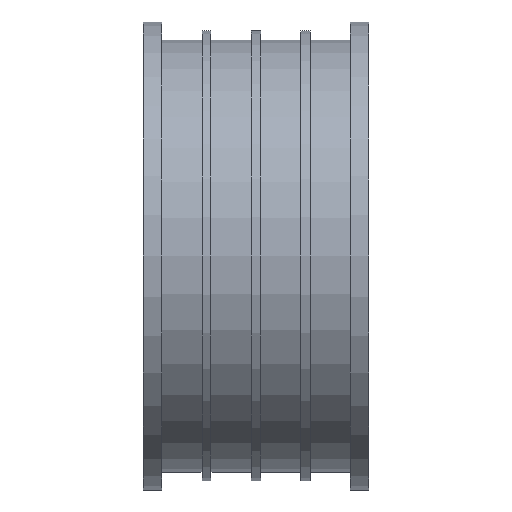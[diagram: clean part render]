
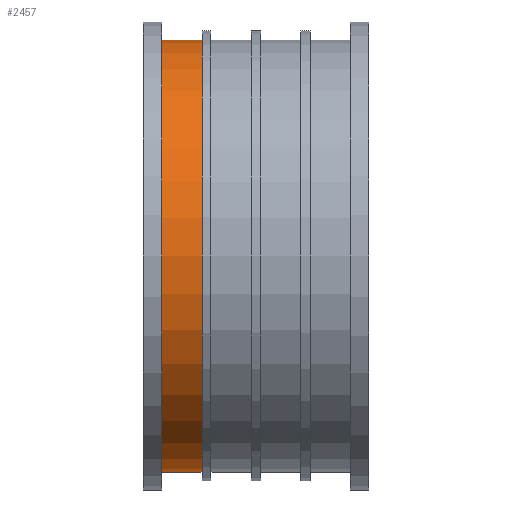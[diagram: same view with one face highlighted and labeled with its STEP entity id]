
A CAD part, front view. The second image highlights one B-rep face of the part: STEP entity #2457.
In plain terms, the highlighted cylindrical face has radius 24 mm (diameter 48 mm), a full revolution.
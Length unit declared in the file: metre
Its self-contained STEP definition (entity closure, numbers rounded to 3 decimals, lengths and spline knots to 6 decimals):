
#50=CYLINDRICAL_SURFACE('',#2698,0.024);
#240=CIRCLE('',#2697,0.024);
#241=CIRCLE('',#2699,0.024);
#807=ORIENTED_EDGE('',*,*,#1350,.F.);
#808=ORIENTED_EDGE('',*,*,#1351,.T.);
#1350=EDGE_CURVE('',#1618,#1618,#240,.T.);
#1351=EDGE_CURVE('',#1619,#1619,#241,.T.);
#1618=VERTEX_POINT('',#4630);
#1619=VERTEX_POINT('',#4633);
#2078=EDGE_LOOP('',(#807));
#2079=EDGE_LOOP('',(#808));
#2234=FACE_BOUND('',#2078,.T.);
#2235=FACE_BOUND('',#2079,.T.);
#2457=ADVANCED_FACE('',(#2234,#2235),#50,.T.);
#2697=AXIS2_PLACEMENT_3D('',#4629,#3267,#3268);
#2698=AXIS2_PLACEMENT_3D('',#4631,#3269,#3270);
#2699=AXIS2_PLACEMENT_3D('',#4632,#3271,#3272);
#3267=DIRECTION('',(-1.,0.,0.));
#3268=DIRECTION('',(0.,0.,1.));
#3269=DIRECTION('',(-1.,0.,0.));
#3270=DIRECTION('',(0.,0.,1.));
#3271=DIRECTION('',(-1.,0.,0.));
#3272=DIRECTION('',(0.,0.,1.));
#4629=CARTESIAN_POINT('',(-0.023,0.,0.));
#4630=CARTESIAN_POINT('',(-0.023,0.,0.024));
#4631=CARTESIAN_POINT('',(0.,0.,0.));
#4632=CARTESIAN_POINT('',(-0.0185,0.,0.));
#4633=CARTESIAN_POINT('',(-0.0185,0.,0.024));
